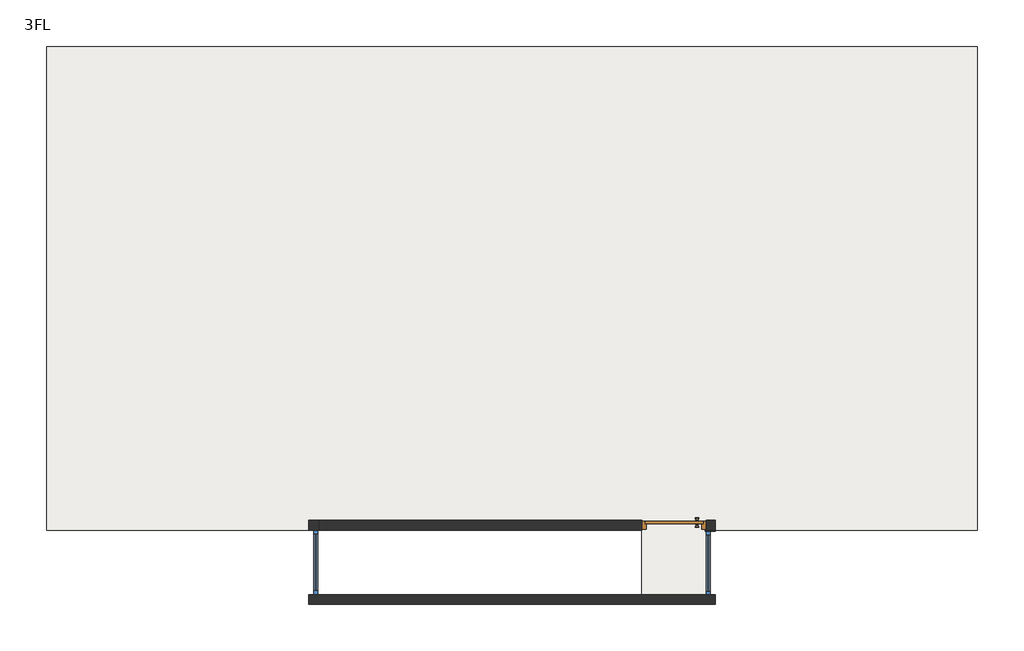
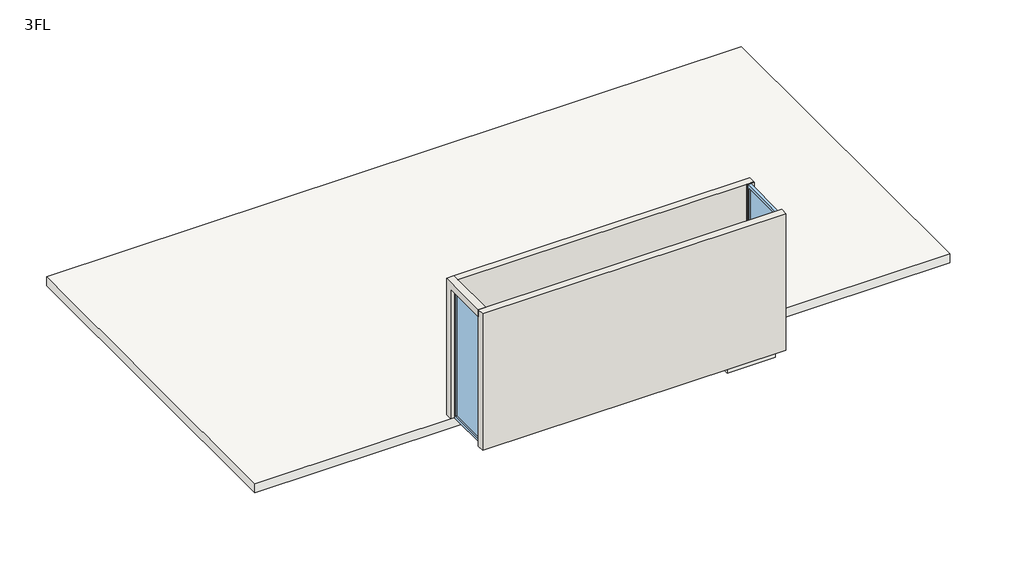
# One storey: 4 walls, 2 windows, 1 door, 1 slab.
"""IFC4 building model written with IfcOpenShell, lengths in millimetres."""

from ifc_helpers import new_model, si_unit, frame, origin, place, context, project, spatial, polyline, outline, extrude, faceted_brep, transform, mapped, element, save
from components import door_100_x_210_cm_7fcb26db, window_85ef9ea3, window_a3bbb001

model = new_model("IFC4")

# Units and contexts
model_context = context("Model", 3, world=origin())
ifc_project = project(units=[si_unit("LENGTHUNIT", "METRE", prefix="MILLI")], contexts=[model_context])

# Site, building, storey
site = spatial("IfcSite", under=ifc_project)
building = spatial("IfcBuilding", under=site)
storey = spatial("IfcBuildingStorey", under=building, Name="3FL", Elevation=6850.0)

# Door
placement = place(None, origin())
door_100_x_210_cm_shape = door_100_x_210_cm_7fcb26db(model_context)
element("IfcDoor", 1, ObjectType="單開-矩形- (1) : 100 x 210 cm", at=placement, inside=storey, context=model_context, shape_type="MappedRepresentation", body=[
    mapped(door_100_x_210_cm_shape, transform((-122.6682319, -6777.8625998, 6850.0), x_axis=(1.0, 0.0, 0.0), y_axis=(0.0, 1.0, 0.0), z_axis=(0.0, 0.0, 1.0))),
])

# Slab
element("IfcSlab", 2, ObjectType="3FL_一般_20cm", at=placement, inside=storey, context=model_context, shape_type="SweptSolid", body=[
    extrude(outline(polyline([(4582.3317681, 437.1374002), (4582.3317681, -7062.8625998), (377.3317681, -7062.8625998), (377.3317681, -8062.8625998), (-622.6682319, -8062.8625998), (-622.6682319, -7062.8625998), (-9857.6682319, -7062.8625998), (-9857.6682319, 437.1374002), (4582.3317681, 437.1374002)])), frame((0.0, 0.0, 6650.0), z_axis=(0.0, 0.0, 1.0), x_axis=(1.0, 0.0, 0.0)), (0.0, 0.0, 1.0), 200.0),
])

# Walls
element("IfcWall", 3, ObjectType="3FL_樓梯_北面_RC 牆_15cm", at=placement, inside=storey, context=model_context, shape_type="Brep", body=[
    faceted_brep([(512.3317681, -8062.8625998, 6850.0), (-5787.6682319, -8062.8625998, 6850.0), (-5787.6682319, -8062.8625998, 9700.0), (-5787.6682319, -8062.8625998, 9850.0), (-5637.6682319, -8062.8625998, 9850.0), (512.3317681, -8062.8625998, 9850.0), (512.3317681, -8212.8625998, 6850.0), (512.3317681, -8212.8625998, 9850.0), (-5787.6682319, -8212.8625998, 9850.0), (-5787.6682319, -8212.8625998, 6850.0)], [[[0, 1, 2, 3, 4, 5]], [[6, 7, 8, 9]], [[1, 0, 6, 9]], [[5, 4, 3, 8, 7]], [[3, 2, 1, 9, 8]], [[0, 5, 7, 6]]]),
])
element("IfcWall", 4, ObjectType="3FL_樓梯_東面_RC 牆_15cm", at=placement, inside=storey, context=model_context, shape_type="Brep", body=[
    faceted_brep([(-5637.6682319, -6912.8625998, 6850.0), (-5637.6682319, -6912.8625998, 9850.0), (-5637.6682319, -7062.8625998, 9850.0), (-5637.6682319, -8062.8625998, 9850.0), (-5637.6682319, -8062.8625998, 9700.0), (-5637.6682319, -7062.8625998, 9700.0), (-5637.6682319, -7062.8625998, 6850.0), (-5787.6682319, -8062.8625998, 9850.0), (-5787.6682319, -6912.8625998, 9850.0), (-5787.6682319, -6912.8625998, 6850.0), (-5787.6682319, -7062.8625998, 6850.0), (-5787.6682319, -7062.8625998, 9700.0), (-5787.6682319, -8062.8625998, 9700.0)], [[[0, 1, 2, 3, 4, 5, 6]], [[7, 8, 9, 10, 11, 12]], [[9, 0, 6, 10]], [[3, 2, 1, 8, 7]], [[1, 0, 9, 8]], [[3, 7, 12, 4]], [[11, 5, 4, 12]], [[5, 11, 10, 6]]]),
])
element("IfcWall", 5, ObjectType="3FL_樓梯_南面_RC 牆_15cm", at=placement, inside=storey, context=model_context, shape_type="Brep", body=[
    faceted_brep([(512.3317681, -7062.8625998, 6850.0), (512.3317681, -7062.8625998, 9850.0), (362.3317681, -7062.8625998, 9850.0), (-5637.6682319, -7062.8625998, 9850.0), (-5637.6682319, -7062.8625998, 6850.0), (-622.6682319, -7062.8625998, 6850.0), (-622.6682319, -7062.8625998, 8950.0), (377.3317681, -7062.8625998, 8950.0), (377.3317681, -7062.8625998, 6850.0), (-5637.6682319, -6912.8625998, 6850.0), (-5637.6682319, -6912.8625998, 9850.0), (512.3317681, -6912.8625998, 9850.0), (512.3317681, -6912.8625998, 6850.0), (377.3317681, -6912.8625998, 6850.0), (377.3317681, -6912.8625998, 8950.0), (-622.6682319, -6912.8625998, 8950.0), (-622.6682319, -6912.8625998, 6850.0)], [[[0, 1, 2, 3, 4, 5, 6, 7, 8]], [[9, 10, 11, 12, 13, 14, 15, 16]], [[4, 9, 16, 5]], [[12, 0, 8, 13]], [[3, 2, 1, 11, 10]], [[1, 0, 12, 11]], [[4, 3, 10, 9]], [[7, 14, 13, 8]], [[14, 7, 6, 15]], [[15, 6, 5, 16]]]),
])
element("IfcWall", 6, ObjectType="3FL_樓梯_西面_RC 牆_15cm", at=placement, inside=storey, context=model_context, shape_type="SweptSolid", body=[
    extrude(outline(polyline([(362.3317681, -7062.8625998), (512.3317681, -7062.8625998), (512.3317681, -7077.8625998), (362.3317681, -7077.8625998), (362.3317681, -7062.8625998)])), frame((0.0, 0.0, 6850.0), z_axis=(0.0, 0.0, 1.0), x_axis=(1.0, 0.0, 0.0)), (0.0, 0.0, 1.0), 3000.0),
])

# Windows
window_shape = window_85ef9ea3(model_context)
element("IfcWindow", 7, ObjectType="固定窗-矩形- (1) : 樓梯_東面_固定窗_矩型_100 x 285cm", at=placement, inside=storey, context=model_context, shape_type="MappedRepresentation", body=[
    mapped(window_shape, transform((-5712.6682319, -7562.8625998, 6850.0), x_axis=(0.0, 1.0, 0.0), y_axis=(-1.0, 0.0, 0.0), z_axis=(0.0, 0.0, 1.0))),
])
window_2_shape = window_a3bbb001(model_context)
element("IfcWindow", 8, ObjectType="固定窗-矩形- (1) : 樓梯_西面_固定窗_矩型_100 x 300cm", at=placement, inside=storey, context=model_context, shape_type="MappedRepresentation", body=[
    mapped(window_2_shape, transform((437.3317681, -7577.8625998, 6850.0), x_axis=(0.0, -1.0, 0.0), y_axis=(1.0, 0.0, 0.0), z_axis=(0.0, 0.0, 1.0))),
])

save(model, "model.ifc")
